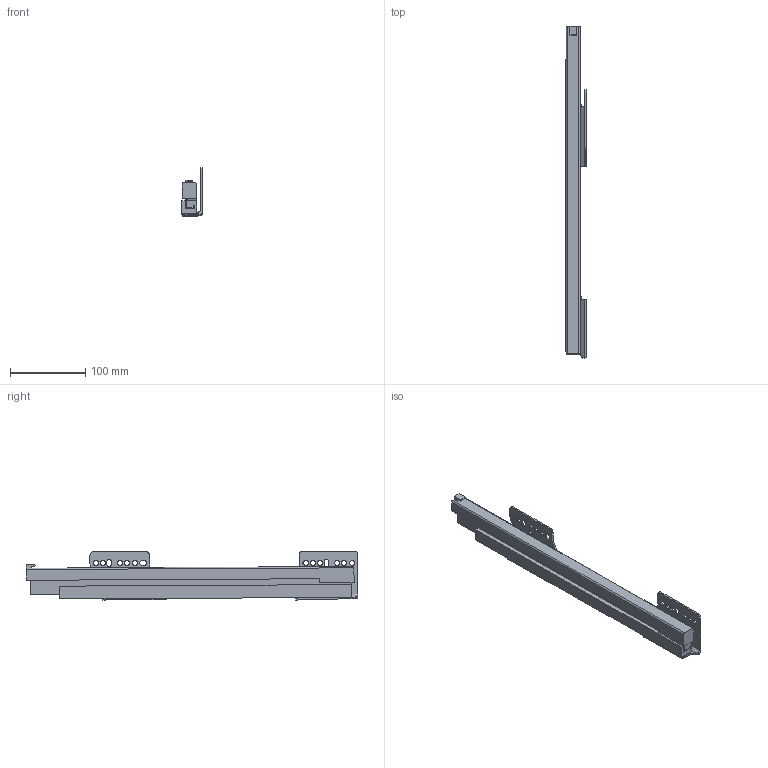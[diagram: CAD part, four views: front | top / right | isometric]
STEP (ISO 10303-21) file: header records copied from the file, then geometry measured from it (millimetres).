
FILE_DESCRIPTION (( 'STEP AP214' ), '1' );
FILE_NAME ('_IMOS_NOVA-Pro_KS_P907_RE_NL450_EB29.step', '2010-07-06T08:28:56', ( 'grass' ), ( '' ), 'SwSTEP 2.0', 'SolidWorks 2009', '' );
FILE_SCHEMA (( 'AUTOMOTIVE_DESIGN' ));
Length unit declared in the file: millimetre
Products named in the file (1): _IMOS_NOVA-Pro_KS_P907_RE_NL450_EB29
Bounding box: 26.75 x 440.35 x 64.46 mm (x, y, z)
Volume: 343534.2 mm3; surface area: 142305.7 mm2
Topology: 6 solids, 6 shells, 144 faces, 392 edges, 260 vertices
Faces by surface type: plane 89, cylinder 55
Entity records: 4691 total; most frequent: CARTESIAN_POINT 848, ORIENTED_EDGE 784, DIRECTION 765, EDGE_CURVE 392, LINE 275, VECTOR 275, VERTEX_POINT 260, AXIS2_PLACEMENT_3D 245
